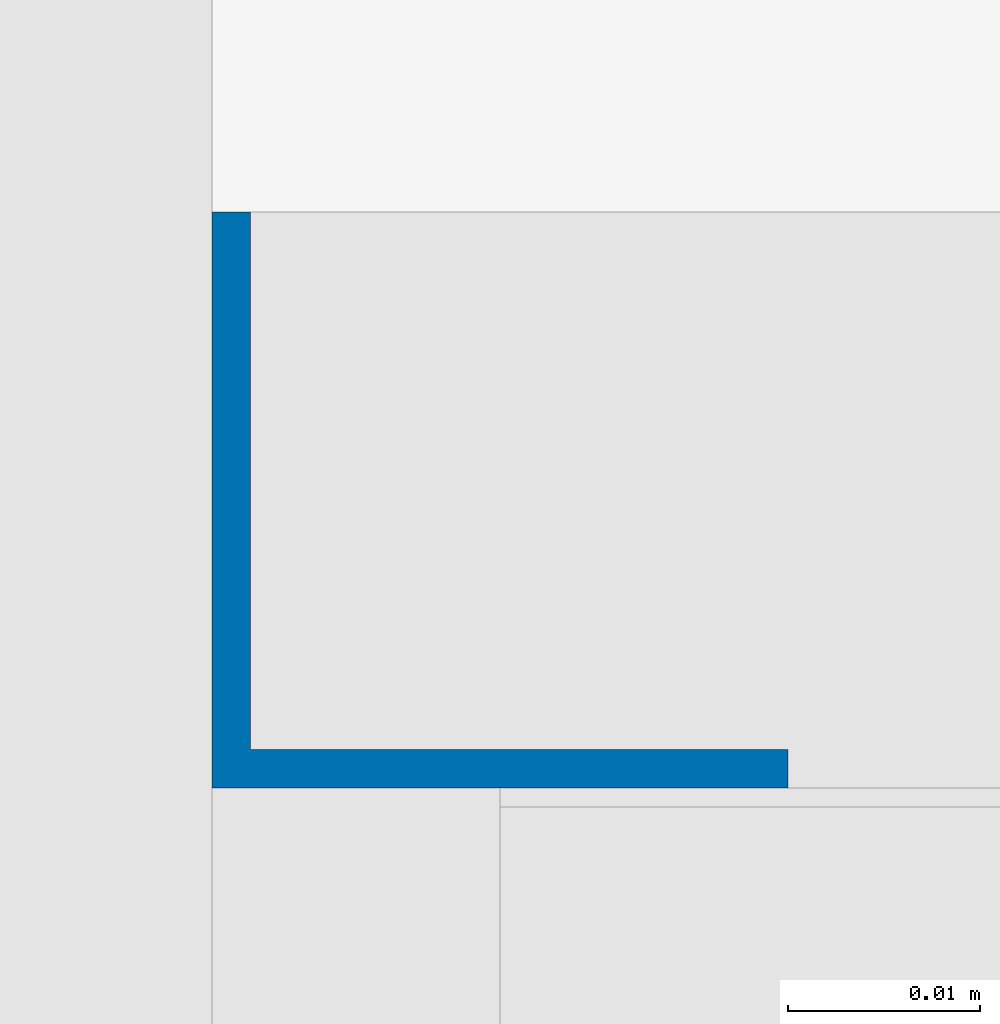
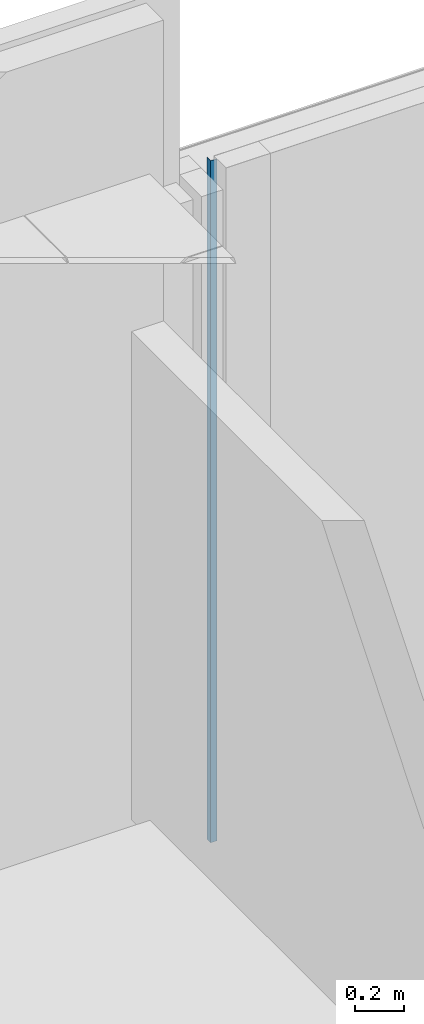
# One storey, part 29 of 321: 1 column.
"""IFC2X3 building model written with IfcOpenShell, lengths in millimetres."""

from ifc_helpers import new_model, entity, si_unit, converted_unit, derived_unit, money_unit, direction, frame, origin_with_axes, place, context, subcontext, project, spatial, faceted_brep, material, type_object, element, save


model = new_model("IFC2X3")

# Units and contexts
model_context = context("Model", 3, precision=0.01, world=origin_with_axes(), true_north=direction((0.0, 1.0)))
plan_context = context("Plan", 3, precision=0.01, world=origin_with_axes(), true_north=direction((0.0, 1.0)))
body_context = subcontext(model_context, "Body", "Model", "MODEL_VIEW")
ifc_project = project(units=[si_unit("LENGTHUNIT", "METRE", prefix="MILLI"), si_unit("AREAUNIT", "SQUARE_METRE"), si_unit("VOLUMEUNIT", "CUBIC_METRE"), converted_unit("PLANEANGLEUNIT", "DEGREE", entity("IfcPlaneAngleMeasure", 0.0174532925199), si_unit("PLANEANGLEUNIT", "RADIAN"), dimensions=[0, 0, 0, 0, 0, 0, 0]), money_unit("EUR"), converted_unit("TIMEUNIT", "Year", entity("IfcTimeMeasure", 31556926.0), si_unit("TIMEUNIT", "SECOND"), dimensions=[0, 0, 1, 0, 0, 0, 0]), si_unit("MASSUNIT", "GRAM", prefix="KILO"), si_unit("THERMODYNAMICTEMPERATUREUNIT", "DEGREE_CELSIUS"), si_unit("LUMINOUSINTENSITYUNIT", "LUMEN"), si_unit("ENERGYUNIT", "JOULE", prefix="MEGA"), derived_unit("THERMALCONDUCTANCEUNIT", [(si_unit("POWERUNIT", "WATT"), 1), (si_unit("LENGTHUNIT", "METRE"), -1), (si_unit("THERMODYNAMICTEMPERATUREUNIT", "KELVIN"), -1)]), derived_unit("SPECIFICHEATCAPACITYUNIT", [(si_unit("ENERGYUNIT", "JOULE"), 1), (si_unit("MASSUNIT", "GRAM", prefix="KILO"), -1), (si_unit("THERMODYNAMICTEMPERATUREUNIT", "KELVIN"), -1)]), derived_unit("MASSDENSITYUNIT", [(si_unit("MASSUNIT", "GRAM", prefix="KILO"), 1), (si_unit("VOLUMEUNIT", "CUBIC_METRE"), -1)])], contexts=[model_context, plan_context])

# Site, building, storey
site_placement = place(None, origin_with_axes())
site = spatial("IfcSite", under=ifc_project, at=site_placement, Name="Fortuinstraat Woensdrecht", CompositionType="ELEMENT")
building_placement = place(site_placement, origin_with_axes())
building = spatial("IfcBuilding", under=site, at=building_placement, Name="IKC Fortuna", CompositionType="ELEMENT")
storey_placement = place(building_placement, frame((0.0, 0.0, 4000.0), z_axis=(0.0, 0.0, 1.0), x_axis=(1.0, 0.0, 0.0)))
storey = spatial("IfcBuildingStorey", under=building, at=storey_placement, Name="01 eerste verdieping", CompositionType="ELEMENT", Elevation=4000.0)

# Column
ifc_material = material(Name="Metaal - Staal C")
column_type = type_object("IfcColumnType", Name="L30/2 30 x 30", PredefinedType="COLUMN")
column_placement = place(storey_placement, frame((35113.4270571, 35596.2966283, -415.0), z_axis=(0.0, 0.0, 1.0), x_axis=(1.0, 0.0, 0.0)))
element("IfcColumn", 1, at=column_placement, inside=storey, type_object=column_type, material=ifc_material, Name="28_Kolom_omtimmering kolom", ObjectType="COLUMN", context=body_context, shape_type="Brep", body=[
    faceted_brep([(0.0, 0.0, 3394.99999804), (0.0, 0.0, 0.0), (30.0, 0.0, 0.0), (30.0, 0.0, 3394.99999804), (0.0, 30.0, 3394.99999804), (0.0, 30.0, 0.0), (2.0, 30.0, 0.0), (2.0, 2.0, 0.0), (30.0, 2.0, 0.0), (30.0, 2.0, 3394.99999804), (2.0, 2.0, 3394.99999804), (2.0, 30.0, 3394.99999804)], [[[0, 1, 2, 3]], [[4, 5, 1, 0]], [[2, 1, 5, 6, 7, 8]], [[3, 2, 8, 9]], [[4, 0, 3, 9, 10, 11]], [[11, 6, 5, 4]], [[10, 7, 6, 11]], [[9, 8, 7, 10]]]),
])

save(model, "model.ifc")
